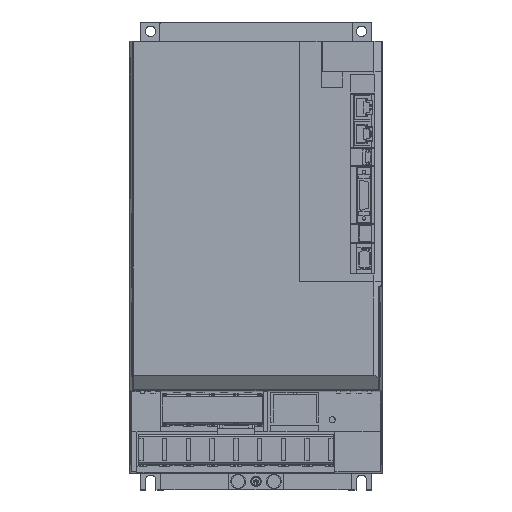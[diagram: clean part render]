
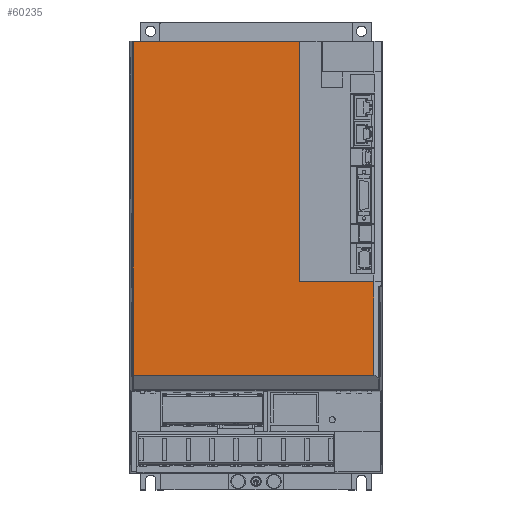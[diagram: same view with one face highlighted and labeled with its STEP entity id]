
A CAD part, top view. The second image highlights one B-rep face of the part: STEP entity #60235.
In plain terms, the highlighted planar face has unit normal (0, 0, 1).
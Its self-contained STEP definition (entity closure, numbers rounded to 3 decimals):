
#554=DIRECTION('',(-1.,0.,0.));
#555=VECTOR('',#554,50.3);
#556=CARTESIAN_POINT('',(79.5,139.8,137.));
#557=LINE('',#556,#555);
#7825=DIRECTION('',(0.,1.,0.));
#7826=VECTOR('',#7825,62.8);
#7827=CARTESIAN_POINT('',(79.5,77.,137.));
#7828=LINE('',#7827,#7826);
#7829=DIRECTION('',(1.,0.,0.));
#7830=VECTOR('',#7829,162.221);
#7831=CARTESIAN_POINT('',(-82.721,77.,137.));
#7832=LINE('',#7831,#7830);
#7833=DIRECTION('',(0.,-1.,0.));
#7834=VECTOR('',#7833,224.721);
#7835=CARTESIAN_POINT('',(-82.721,301.721,137.));
#7836=LINE('',#7835,#7834);
#7837=DIRECTION('',(-1.,0.,0.));
#7838=VECTOR('',#7837,111.921);
#7839=CARTESIAN_POINT('',(29.2,301.721,137.));
#7840=LINE('',#7839,#7838);
#7841=DIRECTION('',(0.,-1.,0.));
#7842=VECTOR('',#7841,161.921);
#7843=CARTESIAN_POINT('',(29.2,301.721,137.));
#7844=LINE('',#7843,#7842);
#43161=CARTESIAN_POINT('',(79.5,77.,137.));
#43162=CARTESIAN_POINT('',(79.5,139.8,137.));
#43163=VERTEX_POINT('',#43161);
#43164=VERTEX_POINT('',#43162);
#43174=CARTESIAN_POINT('',(-82.721,301.721,137.));
#43176=VERTEX_POINT('',#43174);
#43177=CARTESIAN_POINT('',(29.2,301.721,137.));
#43178=CARTESIAN_POINT('',(29.2,139.8,137.));
#43179=VERTEX_POINT('',#43177);
#43180=VERTEX_POINT('',#43178);
#43217=CARTESIAN_POINT('',(-82.721,77.,137.));
#43218=VERTEX_POINT('',#43217);
#60220=CARTESIAN_POINT('',(0.,67.,137.));
#60221=DIRECTION('',(0.,0.,1.));
#60222=DIRECTION('',(1.,0.,0.));
#60223=AXIS2_PLACEMENT_3D('',#60220,#60221,#60222);
#60224=PLANE('',#60223);
#60225=ORIENTED_EDGE('',*,*,#45161,.F.);
#60227=ORIENTED_EDGE('',*,*,#60226,.F.);
#60229=ORIENTED_EDGE('',*,*,#60228,.F.);
#60230=ORIENTED_EDGE('',*,*,#60205,.F.);
#60231=ORIENTED_EDGE('',*,*,#45100,.T.);
#60232=ORIENTED_EDGE('',*,*,#45125,.F.);
#60233=EDGE_LOOP('',(#60225,#60227,#60229,#60230,#60231,#60232));
#60234=FACE_OUTER_BOUND('',#60233,.F.);
#45100=EDGE_CURVE('',#43179,#43180,#7844,.T.);
#45125=EDGE_CURVE('',#43164,#43180,#557,.T.);
#45161=EDGE_CURVE('',#43163,#43164,#7828,.T.);
#60205=EDGE_CURVE('',#43179,#43176,#7840,.T.);
#60226=EDGE_CURVE('',#43218,#43163,#7832,.T.);
#60228=EDGE_CURVE('',#43176,#43218,#7836,.T.);
#60235=ADVANCED_FACE('',(#60234),#60224,.T.);
